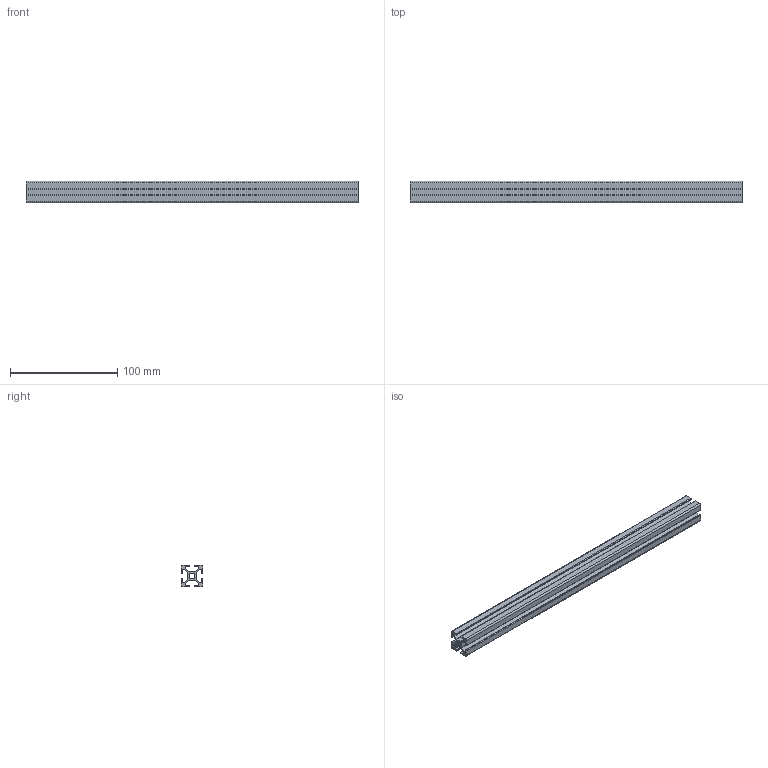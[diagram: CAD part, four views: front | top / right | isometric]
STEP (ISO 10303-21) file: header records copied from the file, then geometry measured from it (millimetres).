
FILE_DESCRIPTION(/* description */ ('STEP AP242 Edition 2','CAx-IF Rec.Pracs.---Representation and Presentation of Product Manufacturing Information (PMI)---4.0---2014-10-13','CAx-IF Rec.Pracs.---3D Tessellated Geometry---0.4---2014-09-14','2;1','CAx-IF Rec.Pracs.---User Defined Attributes---1.5---2016-08-15'),/* implementation_level */ '2;1');
FILE_NAME(/* name */ 'Assembly 1 - Part 4',/* time_stamp */ '2026-10-08T06:00:17Z',/* author */ (''),/* organization */ (''),/* preprocessor_version */ 'ST-DEVELOPER v20',/* originating_system */ 'ONSHAPE BY PTC INC, 1.221',/* authorisation */ ' ');
FILE_SCHEMA (('AP242_MANAGED_MODEL_BASED_3D_ENGINEERING_MIM_LF { 1 0 10303 442 3 1 4 }'));
Length unit declared in the file: metre
Products named in the file (1): Part 4
Bounding box: 310 x 20 x 20 mm (x, y, z)
Volume: 50373.5 mm3; surface area: 56421.6 mm2
Topology: 1 solids, 1 shells, 106 faces, 318 edges, 214 vertices
Faces by surface type: bspline 106
Entity records: 3822 total; most frequent: CARTESIAN_POINT 1181, ORIENTED_EDGE 636, DIRECTION 438, EDGE_CURVE 318, VERTEX_POINT 214, LINE 200, VECTOR 200, AXIS2_PLACEMENT_3D 119
